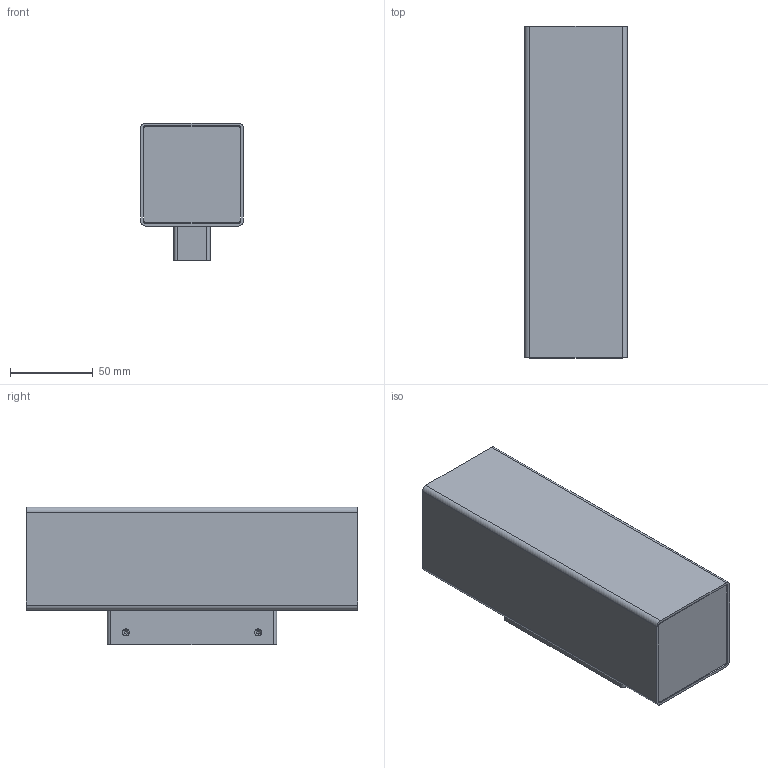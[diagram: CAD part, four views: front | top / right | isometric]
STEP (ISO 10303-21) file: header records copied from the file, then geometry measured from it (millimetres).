
FILE_DESCRIPTION (( 'STEP AP214' ), '1' );
FILE_NAME ('NANOWALL SQUARE skinny.STEP', '2023-10-30T08:57:59', ( '' ), ( '' ), 'SwSTEP 2.0', 'SolidWorks 2023', '' );
FILE_SCHEMA (( 'AUTOMOTIVE_DESIGN' ));
Length unit declared in the file: millimetre
Products named in the file (1): NANOWALL SQUARE skinny
Bounding box: 62 x 200 x 83 mm (x, y, z)
Surface area: 69674.9 mm2 (no closed solid volume)
Topology: 0 solids, 10 shells, 95 faces, 284 edges, 194 vertices
Faces by surface type: plane 45, cylinder 38, cone 12
Entity records: 4298 total; most frequent: CARTESIAN_POINT 682, DIRECTION 568, ORIENTED_EDGE 448, EDGE_CURVE 280, AXIS2_PLACEMENT_3D 196, VERTEX_POINT 194, LINE 176, VECTOR 176
